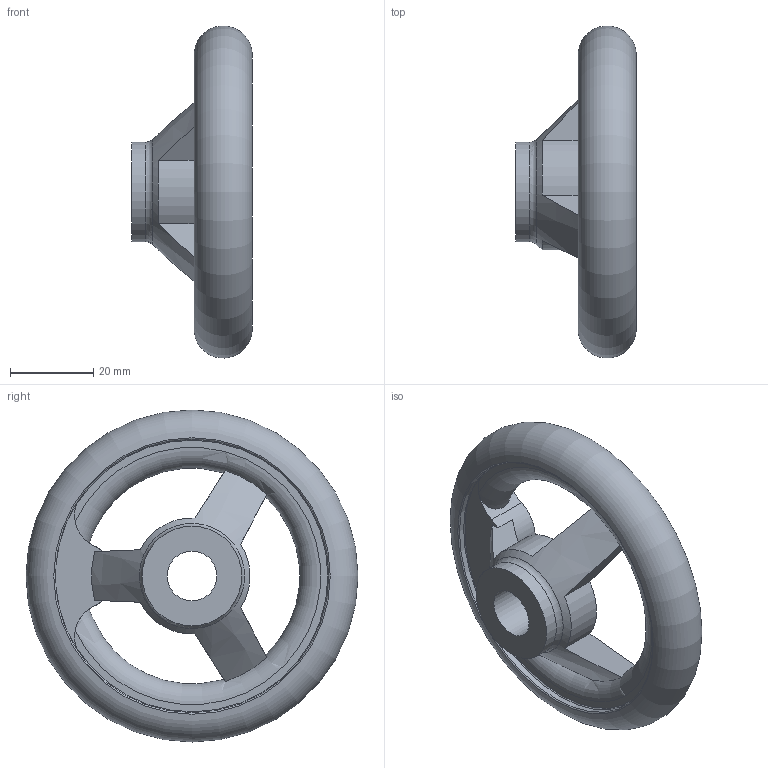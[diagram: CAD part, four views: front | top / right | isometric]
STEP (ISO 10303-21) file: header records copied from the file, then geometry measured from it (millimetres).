
FILE_DESCRIPTION( ( 'STEP AP203' ), '1' );
FILE_NAME( 'C:/Temp/Ganter_Step_05_03_2020/data/1_3/din_950/din_950_b/din_950_b_a/Handwheel DIN 950-AL-80-B12-A.stp', '2020-03-05T10:29:12', ( 'License CC BY-ND 4.0' ), ( 'CADENAS' ), ' ', 'PARTsolutions', ' ' );
FILE_SCHEMA( ( 'CONFIG_CONTROL_DESIGN' ) );
Length unit declared in the file: millimetre
Products named in the file (1): _Handwheel DIN 950-AL-80-B12-A
Bounding box: 29 x 79.98 x 79.98 mm (x, y, z)
Volume: 39393.1 mm3; surface area: 13787.1 mm2
Topology: 1 solids, 1 shells, 35 faces, 101 edges, 64 vertices
Faces by surface type: plane 12, cylinder 11, torus 10, cone 2
Full cylindrical faces by diameter (mm): 12 x1, 24 x2, 66 x2
Entity records: 1354 total; most frequent: CARTESIAN_POINT 471, DIRECTION 172, ORIENTED_EDGE 166, EDGE_CURVE 83, AXIS2_PLACEMENT_3D 80, VERTEX_POINT 61, EDGE_LOOP 53, FACE_OUTER_BOUND 47
